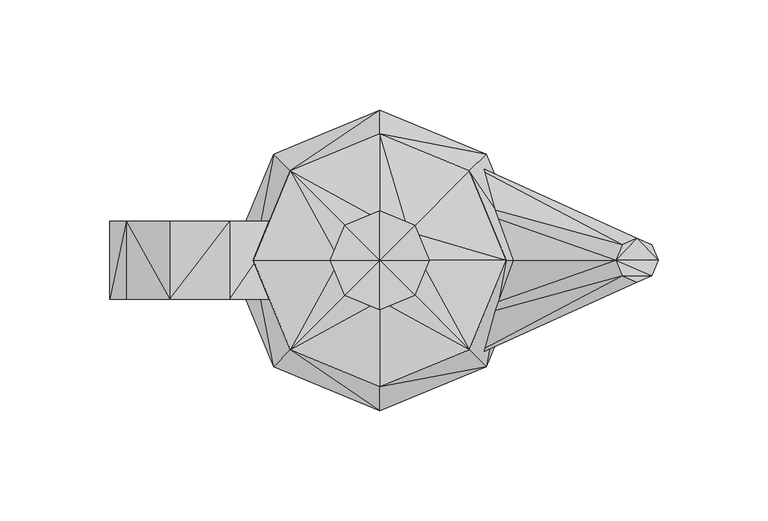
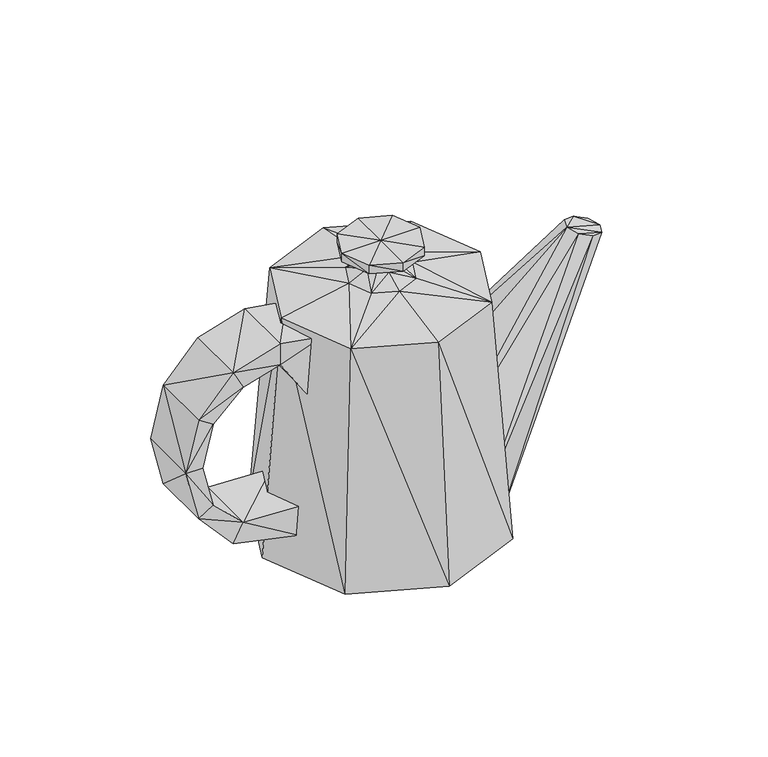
"""IFC4 building model written with IfcOpenShell, lengths in millimetres: geographic element geometry, Enscape AssetDefinition - Teapot : Enscape AssetDefinition - Teapot."""

from ifc_helpers import new_model, si_unit, origin, place, context, project, spatial, faceted_brep, source, transform, mapped, element, save


def geographic_element_d1b7c6a5(model_context):
    return source(origin(), model_context, "Body", "Brep", [
        faceted_brep([(-2.098552, 0.0, 46.5768203), (107.3549837, 0.0, 140.2889788), (7.0437444, 35.2464691, 40.6223759), (7.0437444, -35.2464691, 40.6223759), (110.1596281, 7.0180651, 139.5244896), (110.1596281, -7.0180651, 139.5244896), (123.7016767, -7.0180651, 135.8331889), (126.5063584, 0.0, 135.0686997), (116.9306561, 9.9250395, 137.6788467), (29.1152466, 49.846027, 26.2470972), (51.1867441, 35.2464579, 11.8718101), (123.7016767, 7.0180651, 135.8331889), (60.3290461, 0.0, 5.9173694), (51.1867441, -35.2464579, 11.8718101), (116.9306561, -9.9250395, 137.6788467), (29.1152466, -49.846027, 26.2470972)], [[[0, 1, 2]], [[0, 3, 1]], [[2, 1, 4]], [[1, 3, 5]], [[6, 7, 1]], [[6, 1, 5]], [[8, 4, 1]], [[8, 1, 7]], [[2, 4, 9]], [[9, 4, 8]], [[9, 8, 10]], [[8, 7, 11]], [[10, 8, 11]], [[6, 12, 7]], [[12, 11, 7]], [[13, 12, 6]], [[6, 5, 14]], [[14, 13, 6]], [[10, 11, 12]], [[10, 12, 0]], [[12, 3, 0]], [[3, 12, 13]], [[10, 2, 9]], [[10, 0, 2]], [[3, 15, 5]], [[3, 13, 15]], [[15, 13, 14]], [[5, 15, 14]]]),
        faceted_brep([(-89.7654593, -17.7157205, 39.8258977), (-89.7654593, 17.7157205, 39.8258977), (-106.940046, -17.7157205, 56.3384555), (-53.3776432, 17.7157205, 38.2559188), (-57.6088727, 17.7157205, 20.8028425), (-106.940046, 17.7157205, 56.3384555), (-115.4355332, 17.7157205, 50.9179123), (-95.4876319, 17.7157205, 28.8721491), (-57.6088727, -17.7157205, 20.8028425), (-53.3776432, -17.7157205, 38.2559188), (-95.4876319, -17.7157205, 28.8721491), (-115.4355332, -17.7157205, 50.9179123), (-122.7369606, -17.7157205, 81.0329691), (-122.7369606, 17.7157205, 81.0329691), (-112.9272059, 17.7157205, 81.0329691), (-106.940046, 17.7157205, 105.7275012), (-115.4355332, 17.7157205, 111.1480445), (-112.9272059, -17.7157205, 81.0329691), (-106.940046, -17.7157205, 105.7275012), (-115.4355332, -17.7157205, 111.1480445), (-89.7654593, 17.7157205, 122.2400367), (-95.4876095, -17.7157205, 133.1937909), (-95.4876095, 17.7157205, 133.1937909), (-89.7654593, -17.7157205, 122.2400367), (-68.2382807, -17.7157205, 141.2630975), (-68.2382807, 17.7157205, 141.2630975), (-68.2382807, -17.7157205, 128.6147833), (-68.2382807, 17.7157205, 128.6147833), (-48.2154042, -17.7157205, 98.4508842), (-43.9841747, -17.7157205, 137.2284442), (-43.9841747, 17.7157205, 137.2284442), (-48.2154042, 17.7157205, 98.4508842)], [[[0, 1, 2]], [[3, 4, 1]], [[5, 1, 6]], [[2, 1, 5]], [[1, 4, 7]], [[0, 3, 1]], [[6, 1, 7]], [[8, 4, 9]], [[9, 4, 3]], [[8, 7, 4]], [[9, 3, 0]], [[9, 0, 8]], [[10, 7, 8]], [[8, 0, 10]], [[10, 6, 7]], [[11, 6, 10]], [[10, 0, 11]], [[11, 0, 2]], [[11, 12, 6]], [[11, 2, 12]], [[6, 12, 13]], [[13, 5, 6]], [[14, 5, 13]], [[14, 2, 5]], [[14, 13, 15]], [[12, 16, 13]], [[15, 13, 16]], [[17, 14, 18]], [[17, 2, 14]], [[18, 14, 15]], [[12, 2, 17]], [[17, 18, 12]], [[19, 16, 12]], [[12, 18, 19]], [[15, 16, 20]], [[19, 21, 16]], [[20, 16, 22]], [[16, 21, 22]], [[18, 15, 23]], [[23, 15, 20]], [[18, 23, 19]], [[19, 23, 21]], [[24, 25, 21]], [[23, 26, 21]], [[21, 25, 22]], [[21, 26, 24]], [[20, 22, 27]], [[27, 22, 25]], [[23, 20, 26]], [[26, 20, 27]], [[26, 27, 28]], [[24, 26, 29]], [[29, 26, 28]], [[29, 30, 24]], [[24, 30, 25]], [[30, 27, 25]], [[31, 27, 30]], [[28, 27, 31]], [[28, 31, 29]], [[29, 31, 30]]]),
        faceted_brep([(48.3293124, 48.32929, 0.0), (40.6938642, 40.6938456, 142.6705122), (68.3479533, 0.0, 0.0), (1e-05, 57.549797, 142.6705122), (13.0408499, 13.0408397, 150.0520706), (57.549797, 0.0, 142.6705122), (1e-05, 68.3479533, 0.0), (-48.32929, 48.3293012, 0.0), (-40.6938531, 40.6938531, 142.6705122), (0.0, 18.4425414, 150.0520706), (-68.3479533, 0.0, 0.0), (-57.549797, 0.0, 142.6705122), (-18.442532, 0.0, 150.0520706), (-13.0408294, 13.0408397, 150.0520706), (0.0, 8.1414422, 155.3996205), (-8.1414422, 0.0, 155.3996205), (-5.7568639, 5.7568639, 155.3996205), (-40.6938531, -40.6938531, 142.6705122), (-13.0408295, -13.0408397, 150.0520706), (-48.32929, -48.3293012, 0.0), (1e-05, -68.3479533, 0.0), (0.0, -18.4425414, 150.0520706), (1e-05, -57.549797, 142.6705122), (-5.7568639, -5.7568639, 155.3996205), (0.0, -8.1414422, 155.3996205), (40.6938642, -40.6938456, 142.6705122), (13.0408499, -13.0408397, 150.0520706), (48.3293124, -48.32929, 0.0), (18.4425414, 0.0, 150.0520706), (5.7568639, -5.7568639, 155.3996205), (8.1414515, 0.0, 155.3996205), (5.7568639, 5.7568639, 155.3996205), (-15.8751383, 15.8751477, 164.7025049), (0.0, 22.4508625, 164.7025049), (15.875157, 15.8751477, 164.7025049), (-15.8751383, 15.8751477, 169.9234992), (0.0, 22.4508625, 169.9234992), (15.875157, 15.8751477, 169.9234992), (22.4508625, 0.0, 164.7025049), (0.0, 0.0, 169.9235141), (-22.4508531, 0.0, 169.9234992), (22.4508625, 0.0, 169.9234992), (0.0, -22.4508625, 169.9234992), (15.875157, -15.8751477, 169.9234992), (-15.8751383, -15.8751477, 169.9234992), (15.875157, -15.8751477, 164.7025049), (0.0, -22.4508625, 164.7025049), (-15.8751383, -15.8751477, 164.7025049), (-22.4508531, 0.0, 164.7025049)], [[[0, 1, 2]], [[1, 3, 4]], [[1, 4, 5]], [[2, 1, 5]], [[0, 3, 1]], [[6, 3, 0]], [[2, 7, 0]], [[0, 7, 6]], [[3, 8, 9]], [[4, 3, 9]], [[6, 8, 3]], [[7, 8, 6]], [[10, 11, 7]], [[7, 11, 8]], [[7, 2, 10]], [[11, 12, 8]], [[8, 12, 13]], [[9, 8, 13]], [[9, 14, 4]], [[9, 13, 14]], [[12, 15, 13]], [[14, 13, 16]], [[13, 15, 16]], [[11, 17, 12]], [[12, 18, 15]], [[12, 17, 18]], [[19, 20, 17]], [[18, 17, 21]], [[17, 20, 22]], [[11, 19, 17]], [[21, 17, 22]], [[23, 18, 24]], [[15, 18, 23]], [[24, 18, 21]], [[22, 25, 21]], [[21, 26, 24]], [[21, 25, 26]], [[20, 27, 22]], [[22, 27, 25]], [[19, 27, 20]], [[25, 27, 5]], [[5, 27, 2]], [[19, 2, 27]], [[26, 25, 28]], [[28, 25, 5]], [[29, 26, 30]], [[24, 26, 29]], [[30, 26, 28]], [[28, 4, 30]], [[5, 4, 28]], [[4, 14, 31]], [[30, 4, 31]], [[16, 32, 14]], [[14, 33, 31]], [[14, 32, 33]], [[31, 34, 30]], [[31, 33, 34]], [[32, 35, 33]], [[33, 36, 34]], [[33, 35, 36]], [[34, 37, 38]], [[30, 34, 38]], [[34, 36, 37]], [[37, 36, 39]], [[36, 35, 39]], [[35, 40, 39]], [[32, 40, 35]], [[41, 37, 39]], [[39, 42, 43]], [[39, 40, 44]], [[39, 43, 41]], [[39, 44, 42]], [[38, 37, 41]], [[43, 38, 41]], [[45, 38, 43]], [[45, 30, 38]], [[29, 30, 45]], [[46, 45, 42]], [[46, 29, 45]], [[42, 45, 43]], [[44, 46, 42]], [[47, 46, 44]], [[40, 47, 44]], [[24, 29, 46]], [[47, 24, 46]], [[23, 24, 47]], [[48, 15, 47]], [[48, 47, 40]], [[47, 15, 23]], [[16, 15, 32]], [[32, 15, 48]], [[48, 40, 32]], [[10, 19, 11]], [[2, 19, 10]]]),
    ])


if __name__ == "__main__":
    model = new_model("IFC4")
    model_context = context("Model", 3, world=origin())
    ifc_project = project(units=[si_unit("LENGTHUNIT", "METRE", prefix="MILLI")], contexts=[model_context])
    site = spatial("IfcSite", under=ifc_project)
    building = spatial("IfcBuilding", under=site)
    placement = place(None, origin())
    geographic_element_shape = geographic_element_d1b7c6a5(model_context)
    element("IfcGeographicElement", 1, ObjectType="Enscape AssetDefinition - Teapot : Enscape AssetDefinition - Teapot", at=placement, inside=building, context=model_context, shape_type="MappedRepresentation", body=[
        mapped(geographic_element_shape, transform((0.0, 0.0, 0.0), x_axis=(1.0, 0.0, 0.0), y_axis=(0.0, 1.0, 0.0), z_axis=(0.0, 0.0, 1.0))),
    ])
    save(model, "model.ifc")
